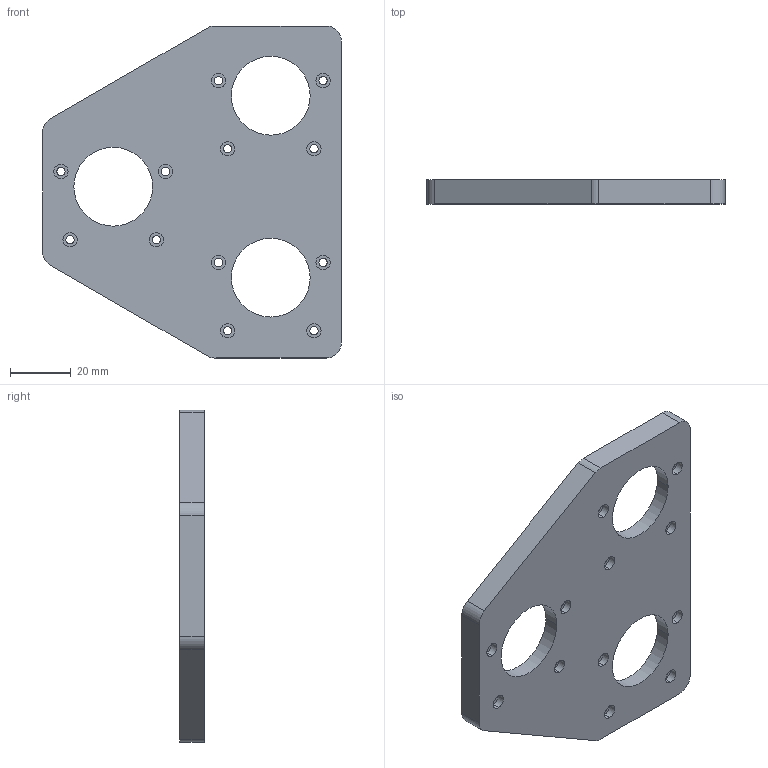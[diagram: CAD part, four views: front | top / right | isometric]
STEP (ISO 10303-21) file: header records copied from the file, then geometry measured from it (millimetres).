
FILE_DESCRIPTION(/* description */ ('(C) Elphel, Inc. 2012. Licensed under CERN OHL v.1.1 or later, see http://ohwr.org/cernohl'),/* implementation_level */ '2;1');
FILE_NAME(/* name */ '0353-12-45',/* time_stamp */ '2012-05-06T01:25:10-06:00',/* author */ (''),/* organization */ ('Elphel, Inc'),/* preprocessor_version */ 'ST-DEVELOPER v12',/* originating_system */ 'VariCAD 2012-1.04; kernel version (20100102)',/* authorisation */ '');
FILE_SCHEMA (('AUTOMOTIVE_DESIGN'));
Length unit declared in the file: millimetre
Products named in the file (1): Part
Bounding box: 98.46 x 8 x 109.5 mm (x, y, z)
Volume: 47307.4 mm3; surface area: 20992.7 mm2
Topology: 1 solids, 1 shells, 107 faces, 270 edges, 180 vertices
Faces by surface type: cylinder 72, plane 35
Entity records: 3375 total; most frequent: DIRECTION 632, CARTESIAN_POINT 559, ORIENTED_EDGE 540, EDGE_CURVE 270, AXIS2_PLACEMENT_3D 253, VERTEX_POINT 180, EDGE_LOOP 152, CIRCLE 144
